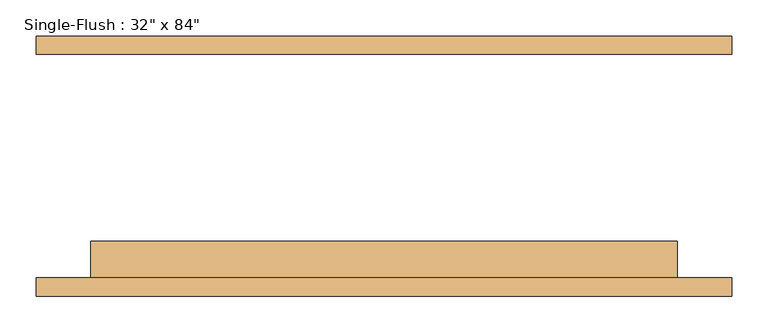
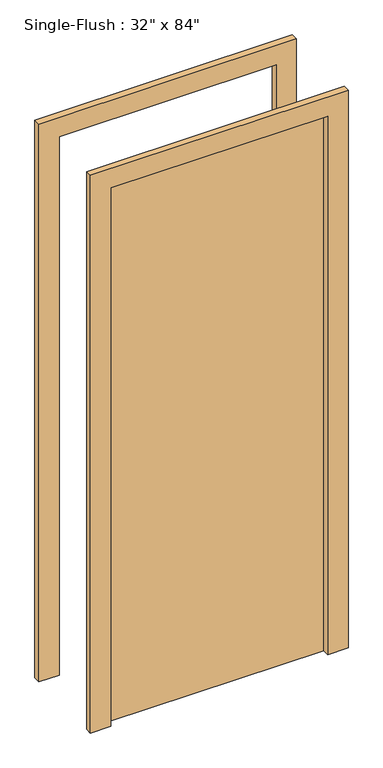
"""IFC4 building model written with IfcOpenShell, lengths in millimetres: door geometry."""

from ifc_helpers import new_model, si_unit, frame, origin, origin_with_axes, place, context, project, spatial, polyline, outline, extrude, source, transform, mapped, element, save


def door_3bbbd0d9(model_context):
    return source(origin(), model_context, "Body", "SweptSolid", [
        extrude(outline(polyline([(2209.8, -482.6), (0.0, -482.6), (0.0, -406.4), (2133.6, -406.4), (2133.6, 406.4), (0.0, 406.4), (0.0, 482.6), (2209.8, 482.6), (2209.8, -482.6)])), frame((0.0, -180.4, 0.0), z_axis=(0.0, 1.0, 0.0), x_axis=(0.0, 0.0, 1.0)), (0.0, 0.0, 1.0), 25.4),
        extrude(outline(polyline([(2209.8, 482.6), (2209.8, -482.6), (0.0, -482.6), (0.0, -406.4), (2133.6, -406.4), (2133.6, 406.4), (0.0, 406.4), (0.0, 482.6), (2209.8, 482.6)])), frame((0.0, 155.0, 0.0), z_axis=(0.0, 1.0, 0.0), x_axis=(0.0, 0.0, 1.0)), (0.0, 0.0, 1.0), 25.4),
        extrude(outline(polyline([(406.4, -104.2), (406.4, -155.0), (-406.4, -155.0), (-406.4, -104.2), (406.4, -104.2)])), origin_with_axes(), (0.0, 0.0, 1.0), 2133.6),
    ])


if __name__ == "__main__":
    model = new_model("IFC4")
    model_context = context("Model", 3, world=origin())
    ifc_project = project(units=[si_unit("LENGTHUNIT", "METRE", prefix="MILLI")], contexts=[model_context])
    site = spatial("IfcSite", under=ifc_project)
    building = spatial("IfcBuilding", under=site)
    placement = place(None, origin())
    door_shape = door_3bbbd0d9(model_context)
    element("IfcDoor", 1, ObjectType="Single-Flush : 32\" x 84\"", at=placement, inside=building, context=model_context, shape_type="MappedRepresentation", body=[
        mapped(door_shape, transform((0.0, 0.0, 0.0), x_axis=(1.0, 0.0, 0.0), y_axis=(0.0, 1.0, 0.0), z_axis=(0.0, 0.0, 1.0))),
    ])
    save(model, "model.ifc")
